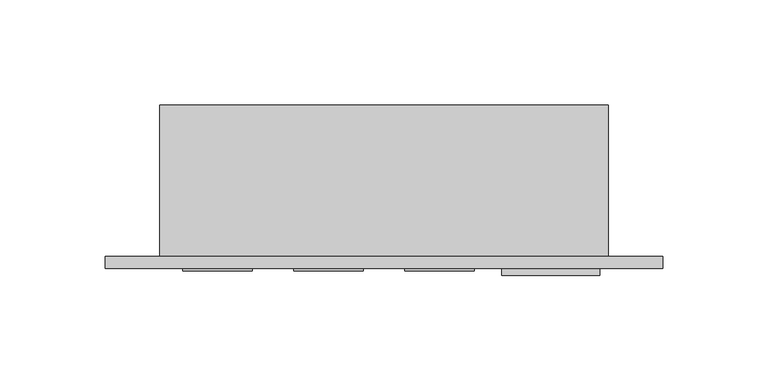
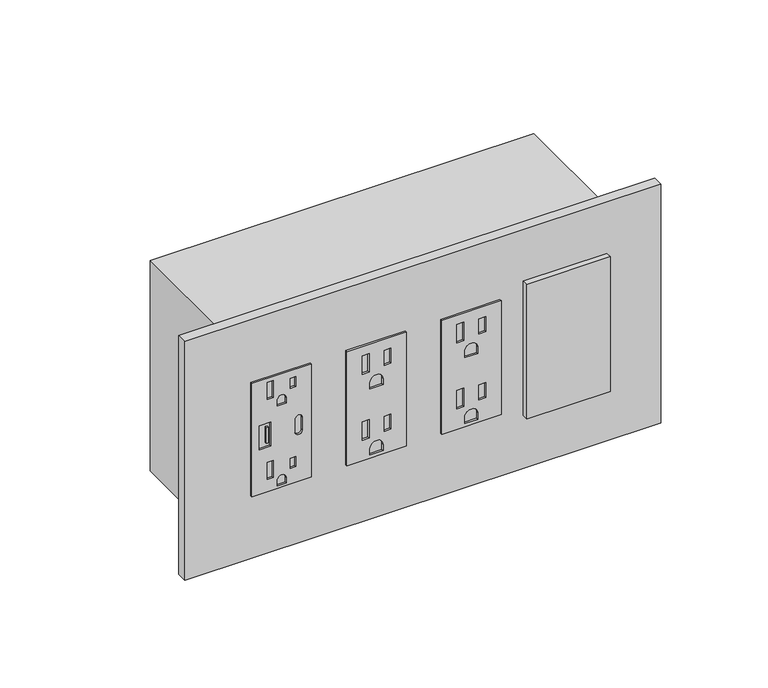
"""IFC4 building model written with IfcOpenShell, lengths in millimetres: proxy geometry, Electrical-Teknion-EPDMQ_Vertical_Power_Data_Quad-R2019 : PD Vertical Module - Quad 15 Amp USB (A+C) & 15 Amp Standard."""

from ifc_helpers import new_model, si_unit, point, frame, frame_2d, origin, place, context, project, spatial, polyline, circle_curve, trimmed, segment, composite_curve, outline, extrude, source, transform, mapped, element, save


def electrical_fixtures_b943349e(model_context):
    return source(origin(), model_context, "Body", "SweptSolid", [
        extrude(outline(polyline([(490.474, 44.0944), (490.474, 11.0998), (423.926, 11.0998), (423.926, 44.0944), (490.474, 44.0944)]), holes=[polyline([(488.0356, 22.9616), (478.2080649, 22.9616), (478.2080649, 19.6342), (488.0356, 19.6342), (488.0356, 22.9616)]), polyline([(486.0301324, 35.41014), (480.2135324, 35.41014), (480.2135324, 32.4358), (486.0301324, 32.4358), (486.0301324, 35.41014)]), composite_curve([segment(polyline([(472.44, 30.0609), (472.44, 25.1333), (475.5388, 25.1333)]), True, "CONTINUOUS"), segment(trimmed(circle_curve(frame_2d((475.5388, 27.5971)), 2.4638), [point((475.5388, 25.1333))], [point((475.5388, 30.0609))], True, "CARTESIAN"), True, "CONTINUOUS"), segment(polyline([(475.5388, 30.0609), (472.44, 30.0609)]), True, "CONTINUOUS")], self_intersect=False), polyline([(441.0456, 22.9616), (431.2180649, 22.9616), (431.2180649, 19.6342), (441.0456, 19.6342), (441.0456, 22.9616)]), polyline([(439.0401324, 35.41014), (433.2235324, 35.41014), (433.2235324, 32.4358), (439.0401324, 32.4358), (439.0401324, 35.41014)]), composite_curve([segment(polyline([(425.45, 30.0609), (425.45, 25.1333), (428.5488, 25.1333)]), True, "CONTINUOUS"), segment(trimmed(circle_curve(frame_2d((428.5488, 27.5971)), 2.4638), [point((428.5488, 25.1333))], [point((428.5488, 30.0609))], True, "CARTESIAN"), True, "CONTINUOUS"), segment(polyline([(428.5488, 30.0609), (425.45, 30.0609)]), True, "CONTINUOUS")], self_intersect=False), polyline([(464.2485, 21.59), (450.1515, 21.59), (450.1515, 15.0876), (464.2485, 15.0876), (464.2485, 21.59)]), composite_curve([segment(trimmed(circle_curve(frame_2d((453.4154, 37.1348)), 1.905), [point((453.4154, 39.0398))], [point((453.4154, 35.2298))], True, "CARTESIAN"), True, "CONTINUOUS"), segment(polyline([(453.4154, 35.2298), (460.9846, 35.2298)]), True, "CONTINUOUS"), segment(trimmed(circle_curve(frame_2d((460.9846, 37.1348)), 1.905), [point((460.9846, 35.2298))], [point((460.9846, 39.0398))], True, "CARTESIAN"), True, "CONTINUOUS"), segment(polyline([(460.9846, 39.0398), (453.4154, 39.0398)]), True, "CONTINUOUS")], self_intersect=False)]), frame((0.0, -6.9294746, 0.0), z_axis=(0.0, 1.0, 0.0), x_axis=(0.0, 0.0, 1.0)), (0.0, 0.0, 1.0), 1.0366746),
        extrude(outline(polyline([(20.0803959, -6.9294746), (18.9613268, -6.9294746), (18.9613268, -5.8928), (20.0803959, -5.8928), (20.0803959, -6.9294746)])), frame((0.0, 0.0, 452.4998162), z_axis=(0.0, 0.0, 1.0), x_axis=(1.0, 0.0, 0.0)), (0.0, 0.0, 1.0), 9.2470447),
        extrude(outline(polyline([(490.6772, 149.4282), (490.6772, 116.4336), (423.7228, 116.4336), (423.7228, 149.4282), (490.6772, 149.4282)]), holes=[polyline([(485.2924, 128.778), (474.472, 128.778), (474.472, 124.9426), (485.2924, 124.9426), (485.2924, 128.778)]), polyline([(484.3145, 140.9446), (475.4499, 140.9446), (475.4499, 137.1092), (484.3145, 137.1092), (484.3145, 140.9446)]), composite_curve([segment(polyline([(464.2866, 136.5631), (464.2866, 129.2987), (467.9188, 129.2987)]), True, "CONTINUOUS"), segment(trimmed(circle_curve(frame_2d((467.9188, 132.9309)), 3.6322), [point((467.9188, 129.2987))], [point((467.9188, 136.5631))], True, "CARTESIAN"), True, "CONTINUOUS"), segment(polyline([(467.9188, 136.5631), (464.2866, 136.5631)]), True, "CONTINUOUS")], self_intersect=False), polyline([(446.5574, 128.778), (435.737, 128.778), (435.737, 124.9426), (446.5574, 124.9426), (446.5574, 128.778)]), polyline([(445.5795, 140.9446), (436.7149, 140.9446), (436.7149, 137.1092), (445.5795, 137.1092), (445.5795, 140.9446)]), composite_curve([segment(polyline([(425.5516, 136.5631), (425.5516, 129.2987), (429.1838, 129.2987)]), True, "CONTINUOUS"), segment(trimmed(circle_curve(frame_2d((429.1838, 132.9309)), 3.6322), [point((429.1838, 129.2987))], [point((429.1838, 136.5631))], True, "CARTESIAN"), True, "CONTINUOUS"), segment(polyline([(429.1838, 136.5631), (425.5516, 136.5631)]), True, "CONTINUOUS")], self_intersect=False)]), frame((0.0, -6.9294746, 0.0), z_axis=(0.0, 1.0, 0.0), x_axis=(0.0, 0.0, 1.0)), (0.0, 0.0, 1.0), 1.0366746),
        extrude(outline(polyline([(490.6772, 96.7613), (490.6772, 63.7667), (423.7228, 63.7667), (423.7228, 96.7613), (490.6772, 96.7613)]), holes=[polyline([(485.2924, 76.1111), (474.472, 76.1111), (474.472, 72.2757), (485.2924, 72.2757), (485.2924, 76.1111)]), polyline([(484.3145, 88.2777), (475.4499, 88.2777), (475.4499, 84.4423), (484.3145, 84.4423), (484.3145, 88.2777)]), composite_curve([segment(polyline([(464.2866, 83.8962), (464.2866, 76.6318), (467.9188, 76.6318)]), True, "CONTINUOUS"), segment(trimmed(circle_curve(frame_2d((467.9188, 80.264)), 3.6322), [point((467.9188, 76.6318))], [point((467.9188, 83.8962))], True, "CARTESIAN"), True, "CONTINUOUS"), segment(polyline([(467.9188, 83.8962), (464.2866, 83.8962)]), True, "CONTINUOUS")], self_intersect=False), polyline([(446.5574, 76.1111), (435.737, 76.1111), (435.737, 72.2757), (446.5574, 72.2757), (446.5574, 76.1111)]), polyline([(445.5795, 88.2777), (436.7149, 88.2777), (436.7149, 84.4423), (445.5795, 84.4423), (445.5795, 88.2777)]), composite_curve([segment(polyline([(425.5516, 83.8962), (425.5516, 76.6318), (429.1838, 76.6318)]), True, "CONTINUOUS"), segment(trimmed(circle_curve(frame_2d((429.1838, 80.264)), 3.6322), [point((429.1838, 76.6318))], [point((429.1838, 83.8962))], True, "CARTESIAN"), True, "CONTINUOUS"), segment(polyline([(429.1838, 83.8962), (425.5516, 83.8962)]), True, "CONTINUOUS")], self_intersect=False)]), frame((0.0, -6.9294746, 0.0), z_axis=(0.0, 1.0, 0.0), x_axis=(0.0, 0.0, 1.0)), (0.0, 0.0, 1.0), 1.0366746),
        extrude(outline(polyline([(162.3314, -5.8928), (208.8642, -5.8928), (208.8642, -9.0678), (162.3314, -9.0678), (162.3314, -5.8928)])), frame((0.0, 0.0, 417.9922742), z_axis=(0.0, 0.0, 1.0), x_axis=(1.0, 0.0, 0.0)), (0.0, 0.0, 1.0), 79.0448),
        extrude(outline(polyline([(-25.6794, 0.0), (238.7092, 0.0), (238.7092, -5.8928), (-25.6794, -5.8928), (-25.6794, 0.0)])), frame((0.0, 0.0, 387.0198), z_axis=(0.0, 0.0, 1.0), x_axis=(1.0, 0.0, 0.0)), (0.0, 0.0, 1.0), 140.3604),
        extrude(outline(polyline([(213.0298, 0.0), (0.0, 0.0), (0.0, 71.7296), (213.0298, 71.7296), (213.0298, 0.0)])), frame((0.0, 0.0, 395.4526), z_axis=(0.0, 0.0, 1.0), x_axis=(1.0, 0.0, 0.0)), (0.0, 0.0, 1.0), 123.4948),
    ])


if __name__ == "__main__":
    model = new_model("IFC4")
    model_context = context("Model", 3, world=origin())
    ifc_project = project(units=[si_unit("LENGTHUNIT", "METRE", prefix="MILLI")], contexts=[model_context])
    site = spatial("IfcSite", under=ifc_project)
    building = spatial("IfcBuilding", under=site)
    placement = place(None, origin())
    electrical_fixtures_shape = electrical_fixtures_b943349e(model_context)
    element("IfcBuildingElementProxy", 1, Name="Electrical-Teknion-EPDMQ_Vertical_Power_Data_Quad-R2019 : PD Vertical Module - Quad 15 Amp USB (A+C) & 15 Amp Standard", ObjectType="Electrical-Teknion-EPDMQ_Vertical_Power_Data_Quad-R2019 : PD Vertical Module - Quad 15 Amp USB (A+C) & 15 Amp Standard", at=placement, inside=building, context=model_context, shape_type="MappedRepresentation", body=[
        mapped(electrical_fixtures_shape, transform((0.0, 0.0, 0.0), x_axis=(1.0, 0.0, 0.0), y_axis=(0.0, 1.0, 0.0), z_axis=(0.0, 0.0, 1.0))),
    ])
    save(model, "model.ifc")
